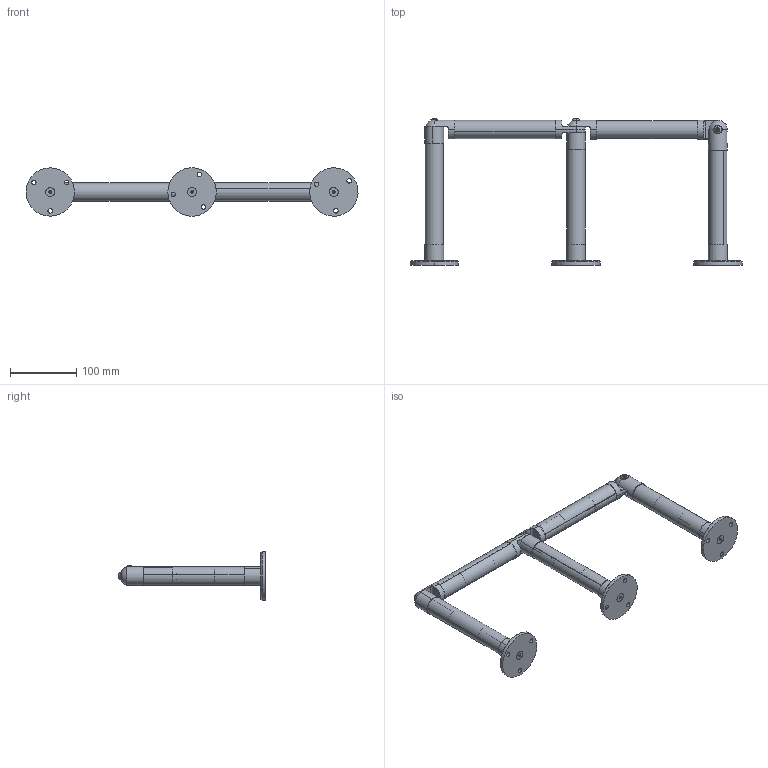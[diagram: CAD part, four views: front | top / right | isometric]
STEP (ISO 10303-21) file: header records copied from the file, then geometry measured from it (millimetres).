
FILE_DESCRIPTION (( 'STEP AP203' ), '1' );
FILE_NAME ('Fence Assembly.STEP', '2013-06-07T20:32:34', ( 'Allred & Associates' ), ( 'Allred & Associates' ), 'SwSTEP 2.0', 'SolidWorks 2013', '' );
FILE_SCHEMA (( 'CONFIG_CONTROL_DESIGN' ));
Length unit declared in the file: inch
Products named in the file (1): Fence Assembly
Bounding box: 501.29 x 220.95 x 73.03 mm (x, y, z)
Volume: 382171.4 mm3; surface area: 272808.7 mm2
Topology: 27 solids, 27 shells, 1520 faces, 3308 edges, 1858 vertices
Faces by surface type: cylinder 651, cone 602, plane 155, torus 62, bspline 36, sphere 14
Entity records: 56848 total; most frequent: CARTESIAN_POINT 25328, ORIENTED_EDGE 6596, DIRECTION 6366, EDGE_CURVE 3298, AXIS2_PLACEMENT_3D 2569, VERTEX_POINT 1858, EDGE_LOOP 1602, ADVANCED_FACE 1520
